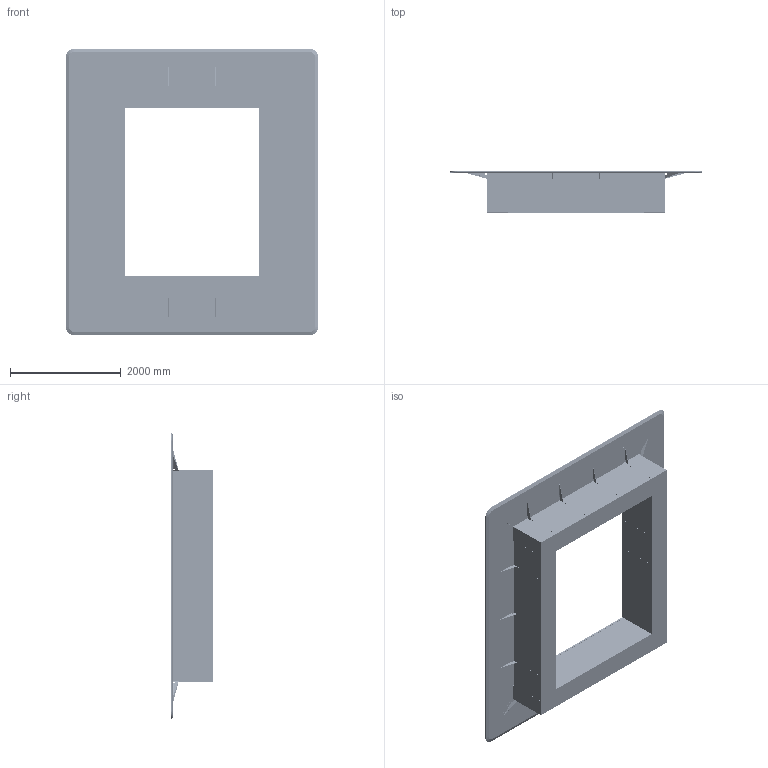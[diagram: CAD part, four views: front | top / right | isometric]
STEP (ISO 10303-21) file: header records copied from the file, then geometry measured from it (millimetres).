
FILE_DESCRIPTION(/* description */ ('','CAx-IF Rec.Pracs.---Representation and Presentation of Product Manufacturing Information (PMI)---4.0---2014-10-13'),/* implementation_level */ '2;1');
FILE_NAME(/* name */ 'TABLE_VIEWLINE 2.stp',/* time_stamp */ '2024-12-07T15:33:56-05:00',/* author */ ('mbowman'),/* organization */ (''),/* preprocessor_version */ 'ST-DEVELOPER v19.2',/* originating_system */ 'Autodesk Inventor 2023',/* authorisation */ '');
FILE_SCHEMA (('AP242_MANAGED_MODEL_BASED_3D_ENGINEERING_MIM_LF { 1 0 10303 442 1 1 4 }'));
Products named in the file (88): VIEWLINE^TABLE 2_6 PC SQUARE-ASSEMBLY; VIEWLINE^TABLE 2_INTERMEDIATE TOP-ASSEMBLY; _ASSEM_HINGE; _ASSEM_HINGE_1; VIEWLINE^TABLE 2_INTERMEDIATE TOP-ASSEMBLY_1; VIEWLINE^TABLE 2_INTERMEDIATE TOP-WORKSURFACE; VIEWLINE^TABLE 2_INTERMEDIATE TOP-BASE FIXED FRONT; VIEWLINE^TABLE 2_INTERMEDIATE TOP-BASE TOP; VIEWLINE^TABLE 2_INTERMEDIATE TOP-BASE BOTTOM; VIEWLINE^TABLE 2_INTERMEDIATE TOP-BASE LEFT END RIB; VIEWLINE^TABLE 2_INTERMEDIATE TOP-BASE RIGHT END RIB; VIEWLINE^TABLE 2_INTERMEDIATE TOP-BASE LEFT CENTER RIB; VIEWLINE^TABLE 2_INTERMEDIATE TOP-BASE RIGHT CENTER RIB; VIEWLINE^TABLE 2_INTERMEDIATE TOP-BASE LEFT ACCESS PANEL; VIEWLINE^TABLE 2_INTERMEDIATE TOP-BASE RIGHT ACCESS PANEL; VIEWLINE^TABLE 2_INTERMEDIATE TOP-BASE CENTER ACCESS PANEL; _ASSEM_HINGE_2; _ASSEM_HINGE_3; VIEWLINE^TABLE 2_LEFT CORNER TOP-ASSEMBLY; _ASSEM_HINGE_4; _ASSEM_HINGE_5; BLUM 75T1750 INSERT HINGE COMPLETE; R30438 - HINGE 107DEG SPRUNG INSET BLUM 75T1780; BLUM 75T1750 INSERT HINGE COMPLETE_1; R30438 - HINGE 107DEG SPRUNG INSET BLUM 75T1780_1; VIEWLINE^TABLE 2_LEFT CORNER TOP-ASSEMBLY_1; VIEWLINE^TABLE 2_CORNER LEFT TOP- BASE FIXED FRONT; VIEWLINE^TABLE 2_CORNER LEFT TOP-BASE TOP; VIEWLINE^TABLE 2_CORNER LEFT TOP-BASE BOTTOM; VIEWLINE^TABLE 2_CORNER LEFT TOP-BASE RIGHT END RIB; VIEWLINE^TABLE 2_CORNER LEFT TOP-BASE RIGHT CENTER RIB; VIEWLINE^TABLE 2_CORNER LEFT TOP-BASE LEFT CENTER RIB; VIEWLINE^TABLE 2_CORNER LEFT TOP-BASE LEFT END RIB; VIEWLINE^TABLE 2_CORNER LEFT TOP-BASE LEFT; VIEWLINE^TABLE 2_CORNER LEFT TOP-BASE LEFT SEATED FIXED; VIEWLINE^TABLE 2_CORNER LEFT TOP-BASE LEFT ACCESS PANEL; VIEWLINE^TABLE 2_CORNER LEFT TOP-BASE RIGHT ACCESS PANEL; VIEWLINE^TABLE 2_CORNER LEFT TOP-BASE FRONT HINGED PANEL; VIEWLINE^TABLE 2_CORNER LEFT TOP-WORKSURFACE; _ASSEM_HINGE_6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
Assembly tree (295 placements, depth 6):
  VIEWLINE^TABLE 2_6 PC SQUARE-ASSEMBLY
    VIEWLINE^TABLE 2_INTERMEDIATE TOP-ASSEMBLY
      VIEWLINE^TABLE 2_INTERMEDIATE TOP-WORKSURFACE
      VIEWLINE^TABLE 2_INTERMEDIATE TOP-BASE FIXED FRONT
      VIEWLINE^TABLE 2_INTERMEDIATE TOP-BASE TOP
      VIEWLINE^TABLE 2_INTERMEDIATE TOP-BASE BOTTOM
      VIEWLINE^TABLE 2_INTERMEDIATE TOP-BASE LEFT END RIB
      VIEWLINE^TABLE 2_INTERMEDIATE TOP-BASE RIGHT END RIB
      VIEWLINE^TABLE 2_INTERMEDIATE TOP-BASE LEFT CENTER RIB
      VIEWLINE^TABLE 2_INTERMEDIATE TOP-BASE RIGHT CENTER RIB
      VIEWLINE^TABLE 2_INTERMEDIATE TOP-BASE LEFT ACCESS PANEL
      VIEWLINE^TABLE 2_INTERMEDIATE TOP-BASE RIGHT ACCESS PANEL
      VIEWLINE^TABLE 2_INTERMEDIATE TOP-BASE CENTER ACCESS PANEL
      ECA INTERACT+ UT
        ECA INTERACT+ UT_1
        8965-6403_8965-6408 no wires  x5
          025-0043_025-0043
      VIEWLINE^TABLE 2_6 PC SQUARE-POWER LID
      _ASSEM_HINGE
        _SUPPORT  x2
        _TIGE_3  x2
        _ARM  x4
        _TIGE_1  x2
        _TIGE_2
      _ASSEM_HINGE_1
        _SUPPORT  x2
        _TIGE_3  x2
        _ARM  x4
        _TIGE_1  x2
        _TIGE_2
      CANTILEVER BRACKET H-496
      CANTILEVER BRACKET H-496_MIR1
    VIEWLINE^TABLE 2_INTERMEDIATE TOP-ASSEMBLY_1
      VIEWLINE^TABLE 2_INTERMEDIATE TOP-WORKSURFACE
      VIEWLINE^TABLE 2_INTERMEDIATE TOP-BASE FIXED FRONT
      VIEWLINE^TABLE 2_INTERMEDIATE TOP-BASE TOP
      VIEWLINE^TABLE 2_INTERMEDIATE TOP-BASE BOTTOM
      VIEWLINE^TABLE 2_INTERMEDIATE TOP-BASE LEFT END RIB
      VIEWLINE^TABLE 2_INTERMEDIATE TOP-BASE RIGHT END RIB
      VIEWLINE^TABLE 2_INTERMEDIATE TOP-BASE LEFT CENTER RIB
      VIEWLINE^TABLE 2_INTERMEDIATE TOP-BASE RIGHT CENTER RIB
      VIEWLINE^TABLE 2_INTERMEDIATE TOP-BASE LEFT ACCESS PANEL
      VIEWLINE^TABLE 2_INTERMEDIATE TOP-BASE RIGHT ACCESS PANEL
      VIEWLINE^TABLE 2_INTERMEDIATE TOP-BASE CENTER ACCESS PANEL
      ECA INTERACT+ UT
        ECA INTERACT+ UT_1
        8965-6403_8965-6408 no wires  x5
          025-0043_025-0043
      VIEWLINE^TABLE 2_6 PC SQUARE-POWER LID
      _ASSEM_HINGE_2
        _SUPPORT  x2
        _TIGE_3  x2
        _ARM  x4
        _TIGE_1  x2
        _TIGE_2
      _ASSEM_HINGE_3
        _SUPPORT  x2
        _TIGE_3  x2
        _ARM  x4
        _TIGE_1  x2
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Bounding box: 4572 x 742.95 x 5181.6 mm (x, y, z)
Volume: 1161566124.1 mm3; surface area: 105321165.8 mm2
Topology: 318 solids, 318 shells, 17506 faces, 47520 edges, 30656 vertices
Faces by surface type: plane 9768, cylinder 6424, torus 764, cone 230, sphere 168, bspline 152
Full cylindrical faces by diameter (mm): 1 x252, 1.1 x24, 2 x64, 2.5 x36, 3 x32, 3.242 x8, 4.5 x12, 4.6 x8, 4.762 x162, 7 x4, 8 x6, 8.007 x18, 9.525 x6, 34.9 x4
Entity records: 70663 total; most frequent: CARTESIAN_POINT 16092, DIRECTION 11251, ORIENTED_EDGE 9232, EDGE_CURVE 4616, AXIS2_PLACEMENT_3D 4031, LINE 3189, VECTOR 3189, VERTEX_POINT 2989
